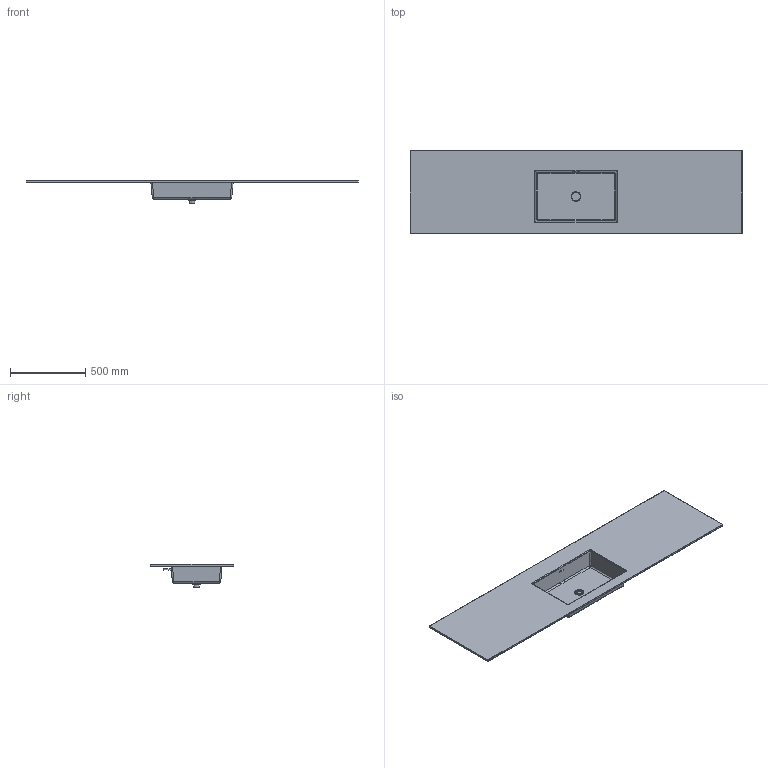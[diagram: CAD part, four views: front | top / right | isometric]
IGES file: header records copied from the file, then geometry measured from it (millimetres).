
Start section:  Autodesk Design for Windows version 2010 IGES version 5.3  Autodesk Design for Windows version 2010 IGES version 5.3
Global section: file name: D:\Desktop\GIOVANNI\SCHEDE PRODOTTO\PIANI LAVABO\DESK 60\3D\MOMA DESIGN_PIANI LAVABO_DESK 60 MODULE.igs; native system: Rhinoceros ( Jan 17 2018 ); preprocessor: Trout Lake IGES 012 Jan 17 2018; date: 230606.102247; units: millimetre
Bounding box: 2200 x 550 x 154.12 mm (x, y, z)
Surface area: 2495242.6 mm2 (no closed solid volume)
Topology: 0 solids, 0 shells, 89 faces, 1192 edges, 1184 vertices
Faces by surface type: bspline 89
